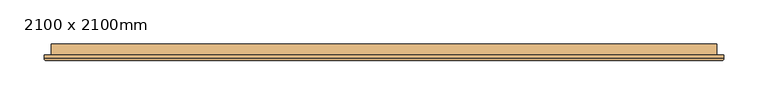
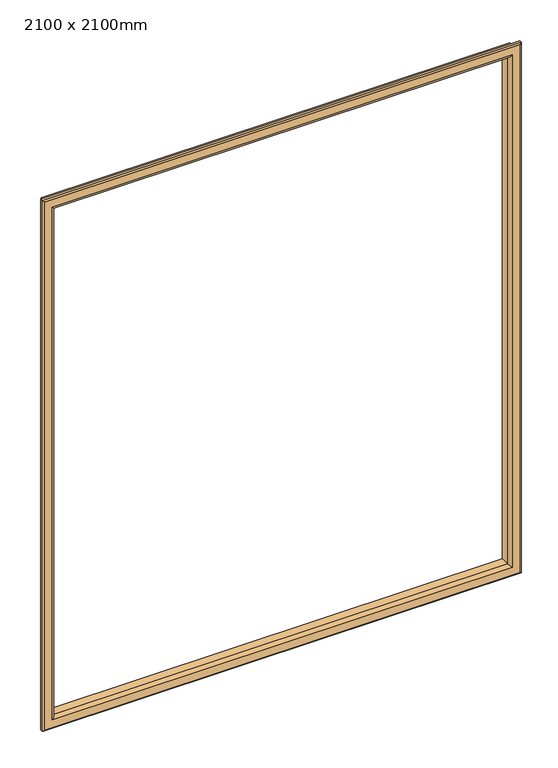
"""IFC4 building model written with IfcOpenShell, lengths in millimetres: door geometry, Дверь-Наружная-Двойная-Две_Свет : 2100 x 2100mm."""

from ifc_helpers import new_model, si_unit, frame, origin, place, context, project, spatial, ellipse_curve, source, transform, mapped, element, save
from ifc_brep_helpers import plane_surface, cylinder_surface, advanced_brep


def door_2100_x_2100mm_6f471736(model_context):
    return source(origin(), model_context, "Body", "AdvancedBrep", [
        advanced_brep(
        [(-900.0, 48.85, 1100.0), (-900.0, 36.35, 1100.0), (-900.0, 36.35, 1980.0), (-900.0, 48.85, 1980.0), (-888.0, 35.35, 1112.0), (-888.0, 48.85, 1112.0), (-888.0, 48.85, 1968.0), (-888.0, 35.35, 1968.0), (-893.0, 30.35, 1107.0), (-893.0, 30.35, 1973.0), (-908.0, 32.35, 1092.0), (-906.0, 30.35, 1094.0), (-906.0, 30.35, 1986.0), (-908.0, 32.35, 1988.0), (-908.0, 36.35, 1092.0), (-908.0, 36.35, 1988.0), (-150.0, 36.35, 1980.0), (-150.0, 48.85, 1980.0), (-162.0, 48.85, 1968.0), (-162.0, 35.35, 1968.0), (-157.0, 30.35, 1973.0), (-144.0, 30.35, 1986.0), (-142.0, 32.35, 1988.0), (-142.0, 36.35, 1988.0), (-150.0, 36.35, 1100.0), (-150.0, 48.85, 1100.0), (-162.0, 48.85, 1112.0), (-162.0, 35.35, 1112.0), (-157.0, 30.35, 1107.0), (-144.0, 30.35, 1094.0), (-142.0, 32.35, 1092.0), (-142.0, 36.35, 1092.0)],
        [
            (0, 1),
            (1, 2),
            (2, 3),
            (3, 0),
            (4, 5),
            (5, 6),
            (6, 7),
            (7, 4),
            (8, 4, ellipse_curve(frame((-893.0, 35.35, 1107.0), z_axis=(-0.7071067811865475, 0.0, 0.7071067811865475), x_axis=(-0.7071067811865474, 0.0, -0.7071067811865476)), 7.0710678, 5.0)),
            (7, 9, ellipse_curve(frame((-893.0, 35.35, 1973.0), z_axis=(-0.7071067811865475, 0.0, -0.7071067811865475), x_axis=(0.7071067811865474, 0.0, -0.7071067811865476)), 7.0710678, 5.0)),
            (9, 8),
            (10, 11, ellipse_curve(frame((-906.0, 32.35, 1094.0), z_axis=(-0.7071067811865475, 0.0, 0.7071067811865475), x_axis=(-0.7071067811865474, 0.0, -0.7071067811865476)), 2.8284271, 2.0)),
            (11, 12),
            (12, 13, ellipse_curve(frame((-906.0, 32.35, 1986.0), z_axis=(-0.7071067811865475, 0.0, -0.7071067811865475), x_axis=(0.7071067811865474, 0.0, -0.7071067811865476)), 2.8284271, 2.0)),
            (13, 10),
            (14, 10),
            (13, 15),
            (15, 14),
            (2, 16),
            (16, 17),
            (17, 3),
            (6, 18),
            (18, 19),
            (19, 7),
            (19, 20, ellipse_curve(frame((-157.0, 35.35, 1973.0), z_axis=(-0.7071067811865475, 0.0, 0.7071067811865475), x_axis=(-0.7071067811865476, 0.0, -0.7071067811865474)), 7.0710678, 5.0)),
            (20, 9),
            (12, 21),
            (21, 22, ellipse_curve(frame((-144.0, 32.35, 1986.0), z_axis=(-0.7071067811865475, 0.0, 0.7071067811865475), x_axis=(-0.7071067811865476, 0.0, -0.7071067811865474)), 2.8284271, 2.0)),
            (22, 13),
            (22, 23),
            (23, 15),
            (16, 24),
            (24, 25),
            (25, 17),
            (18, 26),
            (26, 27),
            (27, 19),
            (27, 28, ellipse_curve(frame((-157.0, 35.35, 1107.0), z_axis=(0.7071067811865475, 0.0, 0.7071067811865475), x_axis=(-0.7071067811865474, 0.0, 0.7071067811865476)), 7.0710678, 5.0)),
            (28, 20),
            (21, 29),
            (29, 30, ellipse_curve(frame((-144.0, 32.35, 1094.0), z_axis=(0.7071067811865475, 0.0, 0.7071067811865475), x_axis=(-0.7071067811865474, 0.0, 0.7071067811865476)), 2.8284271, 2.0)),
            (30, 22),
            (30, 31),
            (31, 23),
            (31, 14),
            (1, 24),
            (0, 25),
            (5, 26),
            (4, 27),
            (8, 28),
            (11, 29),
            (10, 30),
        ],
        [
            plane_surface(frame((-900.0, 36.35, 1100.0), z_axis=(-1.0, 0.0, 0.0), x_axis=(0.0, 0.0, 1.0))),
            plane_surface(frame((-888.0, 48.85, 1112.0), z_axis=(1.0, 0.0, 0.0), x_axis=(0.0, 0.0, 1.0))),
            cylinder_surface(frame((-893.0, 35.35, 1100.0), z_axis=(0.0, 0.0, -1.0), x_axis=(-1.0, 0.0, 0.0)), 5.0),
            cylinder_surface(frame((-906.0, 32.35, 1100.0), z_axis=(0.0, 0.0, -1.0), x_axis=(-1.0, 0.0, 0.0)), 2.0),
            plane_surface(frame((-908.0, 32.35, 1092.0), z_axis=(-1.0, 0.0, 0.0), x_axis=(0.0, 0.0, 1.0))),
            plane_surface(frame((-900.0, 36.35, 1980.0), z_axis=(0.0, 0.0, 1.0), x_axis=(1.0, 0.0, 0.0))),
            plane_surface(frame((-888.0, 48.85, 1968.0), z_axis=(0.0, 0.0, -1.0), x_axis=(1.0, 0.0, 0.0))),
            cylinder_surface(frame((-900.0, 35.35, 1973.0), z_axis=(-1.0, 0.0, 0.0), x_axis=(0.0, 0.0, 1.0)), 5.0),
            cylinder_surface(frame((-900.0, 32.35, 1986.0), z_axis=(-1.0, 0.0, 0.0), x_axis=(0.0, 0.0, 1.0)), 2.0),
            plane_surface(frame((-908.0, 32.35, 1988.0), z_axis=(0.0, 0.0, 1.0), x_axis=(1.0, 0.0, 0.0))),
            plane_surface(frame((-150.0, 36.35, 1980.0), z_axis=(1.0, 0.0, 0.0), x_axis=(0.0, 0.0, -1.0))),
            plane_surface(frame((-162.0, 48.85, 1968.0), z_axis=(-1.0, 0.0, 0.0), x_axis=(0.0, 0.0, -1.0))),
            cylinder_surface(frame((-157.0, 35.35, 1980.0), z_axis=(0.0, 0.0, 1.0), x_axis=(1.0, 0.0, 0.0)), 5.0),
            cylinder_surface(frame((-144.0, 32.35, 1980.0), z_axis=(0.0, 0.0, 1.0), x_axis=(1.0, 0.0, 0.0)), 2.0),
            plane_surface(frame((-142.0, 32.35, 1988.0), z_axis=(1.0, 0.0, 0.0), x_axis=(0.0, 0.0, -1.0))),
            plane_surface(frame((-142.0, 36.35, 1092.0), z_axis=(0.0, 1.0, 0.0), x_axis=(-1.0, 0.0, 0.0))),
            plane_surface(frame((-150.0, 36.35, 1100.0), z_axis=(0.0, 0.0, -1.0), x_axis=(-1.0, 0.0, 0.0))),
            plane_surface(frame((-150.0, 48.85, 1100.0), z_axis=(0.0, 1.0, 0.0), x_axis=(-1.0, 0.0, 0.0))),
            plane_surface(frame((-162.0, 48.85, 1112.0), z_axis=(0.0, 0.0, 1.0), x_axis=(-1.0, 0.0, 0.0))),
            cylinder_surface(frame((-150.0, 35.35, 1107.0), z_axis=(1.0, 0.0, 0.0), x_axis=(0.0, 0.0, -1.0)), 5.0),
            plane_surface(frame((-157.0, 30.35, 1107.0), z_axis=(0.0, -1.0, 0.0), x_axis=(-1.0, 0.0, 0.0))),
            cylinder_surface(frame((-150.0, 32.35, 1094.0), z_axis=(1.0, 0.0, 0.0), x_axis=(0.0, 0.0, -1.0)), 2.0),
            plane_surface(frame((-142.0, 32.35, 1092.0), z_axis=(0.0, 0.0, -1.0), x_axis=(-1.0, 0.0, 0.0))),
        ],
        [
            (0, [[1, 2, 3, 4]]),
            (1, [[5, 6, 7, 8]]),
            (2, [[9, -8, 10, 11]]),
            (3, [[12, 13, 14, 15]]),
            (4, [[16, -15, 17, 18]]),
            (5, [[-3, 19, 20, 21]]),
            (6, [[-7, 22, 23, 24]]),
            (7, [[-10, -24, 25, 26]]),
            (8, [[-14, 27, 28, 29]]),
            (9, [[-17, -29, 30, 31]]),
            (10, [[-20, 32, 33, 34]]),
            (11, [[-23, 35, 36, 37]]),
            (12, [[-25, -37, 38, 39]]),
            (13, [[-28, 40, 41, 42]]),
            (14, [[-30, -42, 43, 44]]),
            (15, [[-31, -44, 45, -18], [46, -32, -19, -2]]),
            (16, [[-33, -46, -1, 47]]),
            (17, [[-21, -34, -47, -4], [48, -35, -22, -6]]),
            (18, [[-36, -48, -5, 49]]),
            (19, [[-38, -49, -9, 50]]),
            (20, [[51, -40, -27, -13], [-26, -39, -50, -11]]),
            (21, [[-41, -51, -12, 52]]),
            (22, [[-43, -52, -16, -45]]),
        ],
    ),
    ])


if __name__ == "__main__":
    model = new_model("IFC4")
    model_context = context("Model", 3, world=origin())
    ifc_project = project(units=[si_unit("LENGTHUNIT", "METRE", prefix="MILLI")], contexts=[model_context])
    site = spatial("IfcSite", under=ifc_project)
    building = spatial("IfcBuilding", under=site)
    placement = place(None, origin())
    door_2100_x_2100mm_shape = door_2100_x_2100mm_6f471736(model_context)
    element("IfcDoor", 1, ObjectType="Дверь-Наружная-Двойная-Две_Свет : 2100 x 2100mm", at=placement, inside=building, context=model_context, shape_type="MappedRepresentation", body=[
        mapped(door_2100_x_2100mm_shape, transform((0.0, 0.0, 0.0), x_axis=(1.0, 0.0, 0.0), y_axis=(0.0, 1.0, 0.0), z_axis=(0.0, 0.0, 1.0))),
    ])
    save(model, "model.ifc")
